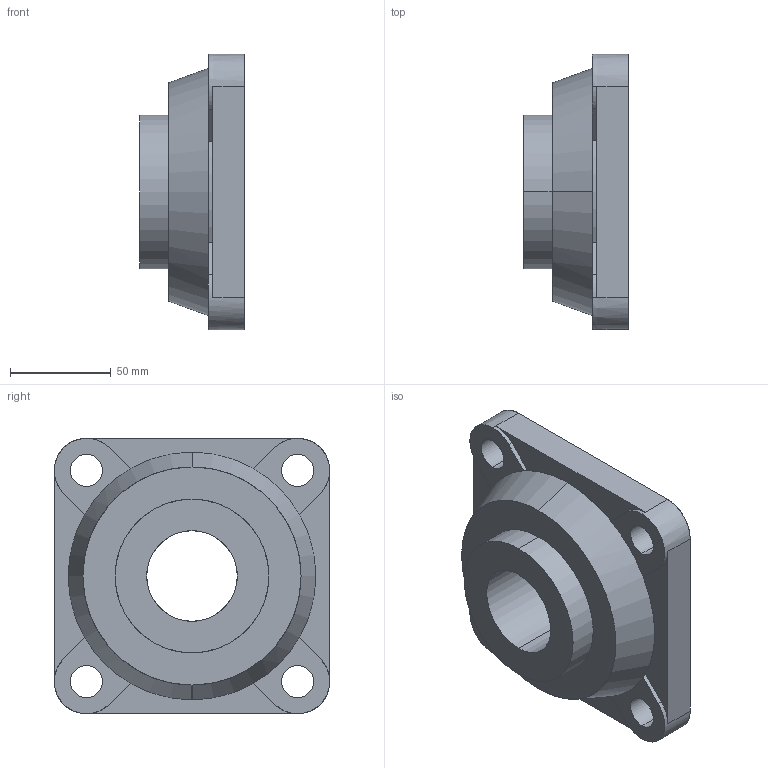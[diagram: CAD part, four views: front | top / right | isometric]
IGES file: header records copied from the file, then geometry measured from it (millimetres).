
Start section: SolidWorks IGES file using analytic representation for surfaces
Global section: file name: C:\Users\Honza\Desktop\Matis\Ložisková tìlesa\UCF\UCF 209.IGS; native system: SolidWorks 2010; preprocessor: SolidWorks 2010; author: Honza; date: 130920.100128; units: millimetre
Bounding box: 52.2 x 137 x 137 mm (x, y, z)
Surface area: 64749.6 mm2 (no closed solid volume)
Topology: 0 solids, 0 shells, 52 faces, 1074 edges, 1074 vertices
Faces by surface type: bspline 27, revolution 25
